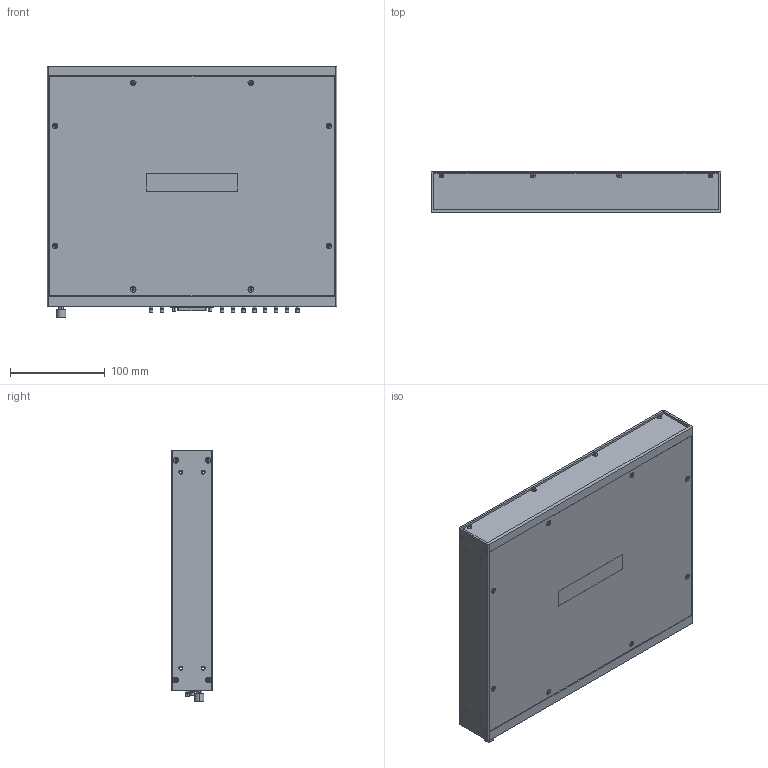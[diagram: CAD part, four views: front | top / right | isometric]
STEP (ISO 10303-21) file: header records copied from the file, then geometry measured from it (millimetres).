
FILE_DESCRIPTION((''),'2;1');
FILE_NAME('CU_SMB-2146','2010-06-14T',('jjorden'),(''),'PRO/ENGINEER BY PARAMETRIC TECHNOLOGY CORPORATION, 2006080','PRO/ENGINEER BY PARAMETRIC TECHNOLOGY CORPORATION, 2006080','');
FILE_SCHEMA(('CONFIG_CONTROL_DESIGN'));
Products named in the file (1): CU_SMB-2146
Bounding box: 306.32 x 43.94 x 266.42 mm (x, y, z)
Volume: 443179.2 mm3; surface area: 471130 mm2
Topology: 37 solids, 37 shells, 3175 faces, 7888 edges, 4536 vertices
Faces by surface type: plane 1435, cylinder 832, bspline 560, cone 288, sphere 40, torus 20
Entity records: 114181 total; most frequent: CARTESIAN_POINT 42701, ORIENTED_EDGE 14752, DIRECTION 14036, EDGE_CURVE 7376, VERTEX_POINT 5144, AXIS2_PLACEMENT_3D 4942, VECTOR 4152, LINE 4152
